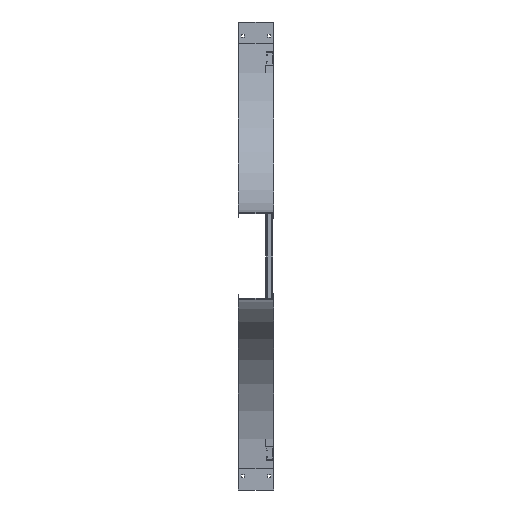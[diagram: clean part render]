
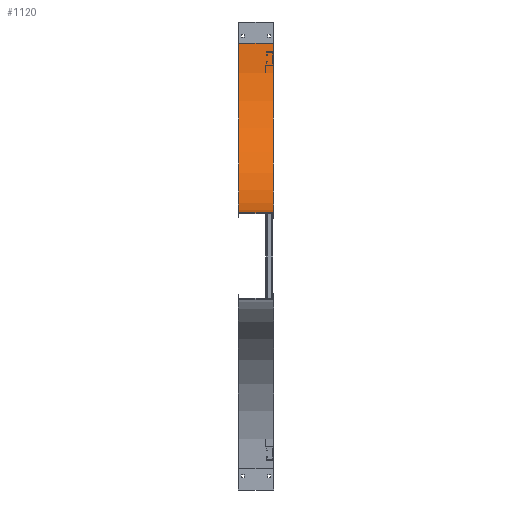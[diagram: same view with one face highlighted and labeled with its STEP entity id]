
A CAD part, left-side view. The second image highlights one B-rep face of the part: STEP entity #1120.
In plain terms, the highlighted cylindrical face has radius 609.6 mm (diameter 1219.2 mm), a partial arc.
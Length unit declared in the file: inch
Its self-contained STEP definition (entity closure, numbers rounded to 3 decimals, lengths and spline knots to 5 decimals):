
#157=CARTESIAN_POINT('',(4.995,-24.,3.));
#158=DIRECTION('',(1.,0.,0.));
#159=DIRECTION('',(0.,1.,0.));
#160=AXIS2_PLACEMENT_3D('',#157,#158,#159);
#350=DIRECTION('',(1.,0.,0.));
#351=VECTOR('',#350,4.91);
#352=CARTESIAN_POINT('',(0.085,-24.,27.));
#353=LINE('',#352,#351);
#390=DIRECTION('',(1.,0.,0.));
#391=VECTOR('',#390,4.91);
#392=CARTESIAN_POINT('',(0.085,0.,3.));
#393=LINE('',#392,#391);
#394=CARTESIAN_POINT('',(0.085,-24.,3.));
#395=DIRECTION('',(1.,0.,0.));
#396=DIRECTION('',(0.,1.,0.));
#397=AXIS2_PLACEMENT_3D('',#394,#395,#396);
#521=CARTESIAN_POINT('',(0.085,0.,3.));
#522=CARTESIAN_POINT('',(4.995,0.,3.));
#523=VERTEX_POINT('',#521);
#524=VERTEX_POINT('',#522);
#545=CARTESIAN_POINT('',(0.085,-24.,27.));
#546=CARTESIAN_POINT('',(4.995,-24.,27.));
#547=VERTEX_POINT('',#545);
#548=VERTEX_POINT('',#546);
#1109=CARTESIAN_POINT('',(-1.,-24.,3.));
#1110=DIRECTION('',(1.,0.,0.));
#1111=DIRECTION('',(0.,-1.,0.));
#1112=AXIS2_PLACEMENT_3D('',#1109,#1110,#1111);
#1113=CYLINDRICAL_SURFACE('',#1112,24.);
#1114=ORIENTED_EDGE('',*,*,#894,.F.);
#1115=ORIENTED_EDGE('',*,*,#935,.T.);
#1116=ORIENTED_EDGE('',*,*,#1082,.T.);
#1117=ORIENTED_EDGE('',*,*,#872,.F.);
#1118=EDGE_LOOP('',(#1114,#1115,#1116,#1117));
#1119=FACE_OUTER_BOUND('',#1118,.F.);
#1120=ADVANCED_FACE('',(#1119),#1113,.F.);
#161=CIRCLE('',#160,24.);
#398=CIRCLE('',#397,24.);
#872=EDGE_CURVE('',#524,#548,#161,.T.);
#894=EDGE_CURVE('',#523,#524,#393,.T.);
#935=EDGE_CURVE('',#523,#547,#398,.T.);
#1082=EDGE_CURVE('',#547,#548,#353,.T.);
